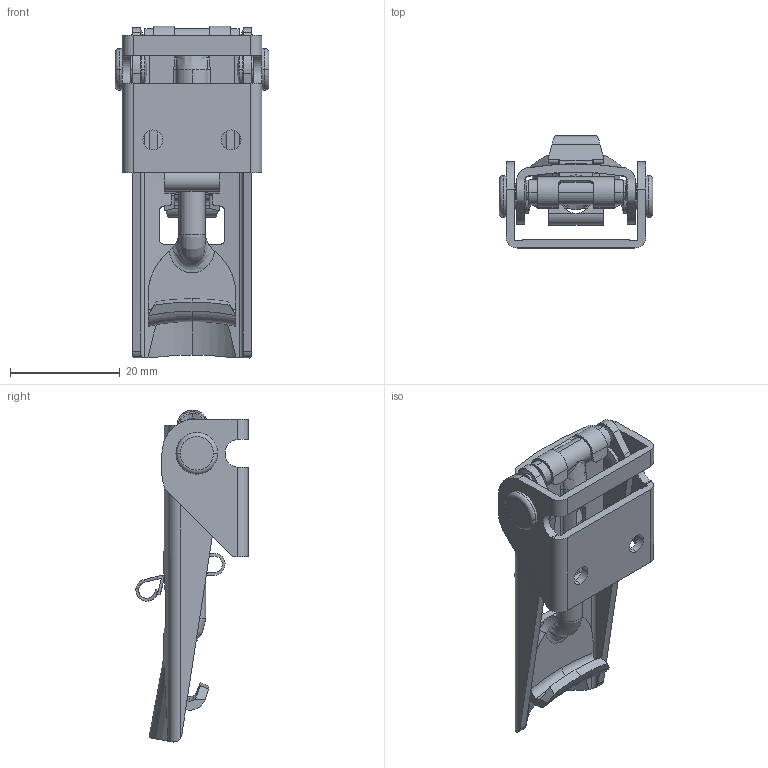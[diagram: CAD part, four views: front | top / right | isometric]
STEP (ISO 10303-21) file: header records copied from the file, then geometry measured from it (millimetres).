
FILE_DESCRIPTION (( 'STEP AP214' ), '1' );
FILE_NAME ('V951L03-1X1_Dummy.STEP', '2012-11-08T08:45:25', ( '' ), ( '' ), 'SwSTEP 2.0', 'SolidWorks 2009', '' );
FILE_SCHEMA (( 'AUTOMOTIVE_DESIGN' ));
Length unit declared in the file: millimetre
Products named in the file (1): V951L03-1X1_Dummy
Bounding box: 28 x 20.45 x 60.5 mm (x, y, z)
Volume: 6205.6 mm3; surface area: 9606.4 mm2
Topology: 1 solids, 1 shells, 422 faces, 1178 edges, 746 vertices
Faces by surface type: cylinder 174, plane 160, bspline 40, torus 25, cone 19, sphere 4
Entity records: 17053 total; most frequent: CARTESIAN_POINT 6601, ORIENTED_EDGE 2340, DIRECTION 2023, EDGE_CURVE 1170, AXIS2_PLACEMENT_3D 752, VERTEX_POINT 746, VECTOR 519, LINE 519
